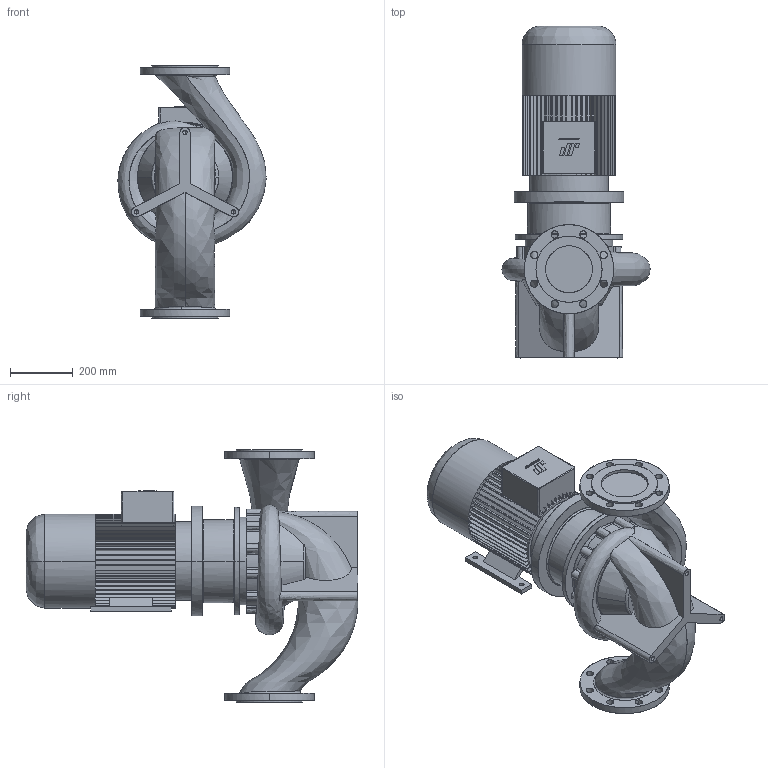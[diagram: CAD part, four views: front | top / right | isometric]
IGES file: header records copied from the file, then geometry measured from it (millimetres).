
Start section: CombiLine
Global section: file name: CLB_125A-250_IEC160M_ND10.igs; native system:  By UGS Corp.; preprocessor: XPlus GENERIC/IGES 3.0; author: Stageplaats; organization: Johnson Pump Water B.V.; date: 20070718.100213; units: millimetre
Bounding box: 473.04 x 1059.5 x 805 mm (x, y, z)
Surface area: 2567208 mm2 (no closed solid volume)
Topology: 0 solids, 0 shells, 618 faces, 3778 edges, 3772 vertices
Faces by surface type: bspline 618
